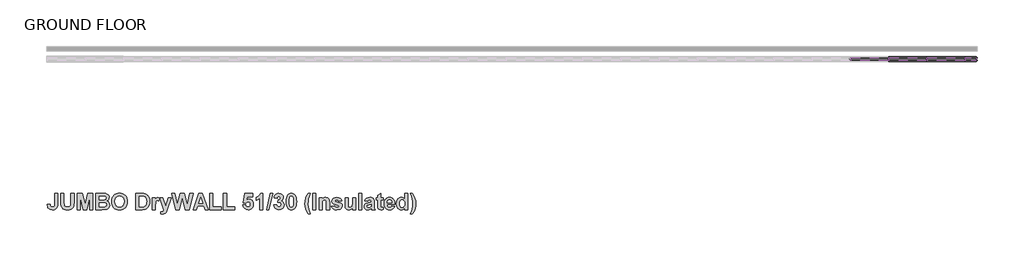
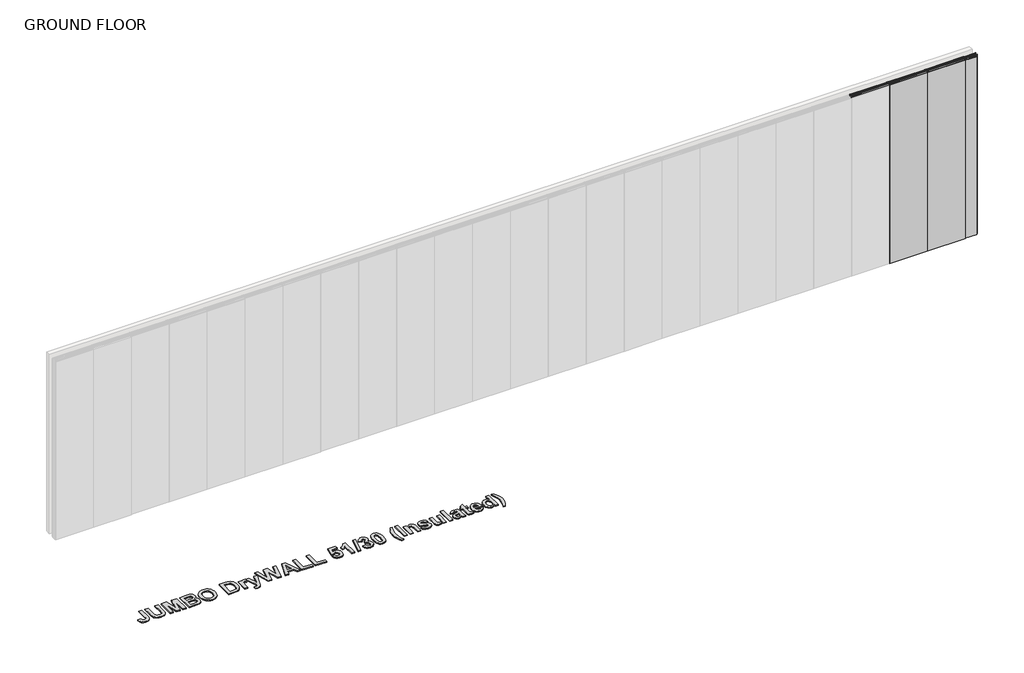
# One storey, part 2 of 2: 13 members, 3 plates, 1 proxy.
"""IFC4 building model written with IfcOpenShell, lengths in millimetres."""

from ifc_helpers import new_model, si_unit, origin, origin_with_axes, place, context, project, spatial, polyline, outline, extrude, transform, mapped, element, save
from components import rectangular_mullion_stud_mullion_51mm_94d3096a, rectangular_mullion_stud_mullion_51mm_2ef0a27f, rectangular_mullion_stud_mullion_51mm_d47c2d60, rectangular_mullion_stud_mullion_51mm_92998b61, rectangular_mullion_stud_mullion_51mm_77066ee0, rectangular_mullion_stud_mullion_51mm_8a3d9f1b, plate_2_layer_drywall_panels_2_layer_12mm_thick_drywall_9ebc670e, plate_2_layer_drywall_panels_2_layer_12mm_thick_drywall_8d42099b

model = new_model("IFC4")

# Units and contexts
model_context = context("Model", 3, world=origin())
ifc_project = project(units=[si_unit("LENGTHUNIT", "METRE", prefix="MILLI")], contexts=[model_context])

# Site, building, storey
site = spatial("IfcSite", under=ifc_project)
building = spatial("IfcBuilding", under=site)
storey = spatial("IfcBuildingStorey", under=building, Name="GROUND FLOOR", Elevation=0.0)

# Proxy
placement = place(None, origin())
element("IfcBuildingElementProxy", 1, Name="600mm Arial", ObjectType="600mm Arial", at=placement, inside=storey, context=model_context, shape_type="SweptSolid", body=[
    extrude(outline(polyline([(61762.9500241, -3369.743976), (61811.5338051, -3369.743976), (61811.5338051, -3530.994051), (61810.1104521, -3558.9866592), (61805.8403932, -3579.7043522), (61795.149431, -3599.7261838), (61778.2589759, -3615.3830664), (61755.0741377, -3625.4888724), (61725.5000263, -3628.8574744), (61691.5293357, -3623.4566406), (61677.8651473, -3616.7055985), (61666.4150635, -3607.2541395), (61657.3530497, -3595.1892463), (61650.8530712, -3580.5979016), (61645.5392201, -3543.8358577), (61694.1230011, -3539.7872093), (61696.3529207, -3558.417318), (61701.1448757, -3570.6581534), (61712.5633294, -3580.9062947), (61728.726293, -3584.3223418), (61744.7073837, -3581.8710117), (61755.200658, -3574.5170215), (61761.0126826, -3559.4611102), (61762.9500241, -3533.9040171), (61762.9500241, -3369.743976)])), origin_with_axes(), (0.0, 0.0, 1.0), 15.0),
    extrude(outline(polyline([(61860.117586, -3369.743976), (61908.701367, -3369.743976), (61908.701367, -3507.3347619), (61910.7889513, -3549.8455702), (61916.8777389, -3563.8814119), (61927.9324469, -3574.8649522), (61943.9530752, -3581.9579944), (61964.9396238, -3584.3223418), (61985.9024499, -3582.0924222), (62000.9662687, -3575.4026633), (62010.6687913, -3565.4629151), (62015.547729, -3553.4830277), (62018.0148741, -3510.307988), (62018.0148741, -3369.743976), (62066.598655, -3369.743976), (62066.598655, -3503.539154), (62062.3602262, -3568.3807887), (62056.3346987, -3585.8326775), (62046.7349738, -3600.3587851), (62033.4266236, -3612.085632), (62016.2752205, -3621.1397383), (61994.2844173, -3626.9280404), (61966.457867, -3628.8574744), (61933.8630842, -3626.754075), (61910.2196101, -3620.4438769), (61893.0602995, -3610.7650768), (61879.9180071, -3598.5558714), (61870.682028, -3584.7493477), (61865.2416567, -3570.2785926), (61861.3986037, -3543.1716263), (61860.117586, -3505.6267383), (61860.117586, -3369.743976)])), origin_with_axes(), (0.0, 0.0, 1.0), 15.0),
    extrude(outline(polyline([(62115.182436, -3624.808826), (62115.182436, -3369.743976), (62198.432769, -3369.743976), (62238.6662126, -3543.7093374), (62278.8996562, -3369.743976), (62362.1499892, -3369.743976), (62362.1499892, -3624.808826), (62313.5662082, -3624.808826), (62311.541884, -3424.0211687), (62267.1332717, -3624.808826), (62210.2624136, -3624.808826), (62165.7905412, -3424.0211687), (62163.7662169, -3624.808826), (62115.182436, -3624.808826)])), origin_with_axes(), (0.0, 0.0, 1.0), 15.0),
    extrude(outline(polyline([(62410.7337701, -3369.743976), (62515.4292877, -3369.743976), (62561.7673339, -3372.2743812), (62589.0957107, -3382.8704532), (62600.1425112, -3392.2645828), (62609.1808025, -3404.3156378), (62615.20633, -3418.5096298), (62617.2148391, -3434.3325702), (62614.8188617, -3451.570956), (62607.6309292, -3467.3543588), (62596.3310883, -3480.5282812), (62581.5993851, -3489.9382257), (62600.2294939, -3499.0793147), (62613.9885724, -3512.9649136), (62622.4812451, -3530.6619353), (62625.312136, -3551.2372931), (62623.2799042, -3568.3254361), (62617.1832091, -3584.9233131), (62607.5676691, -3599.6312936), (62594.9789029, -3611.0497474), (62579.2666678, -3618.9493563), (62560.2807208, -3623.1008024), (62497.9062312, -3624.808826), (62410.7337701, -3624.808826), (62410.7337701, -3369.743976)]), holes=[polyline([(62459.3175511, -3414.2791085), (62459.3175511, -3470.9601863), (62496.3879881, -3470.9601863), (62537.5070735, -3470.1378046), (62550.4516779, -3467.1803934), (62560.3123509, -3461.3446463), (62566.5513814, -3452.9152338), (62568.6310582, -3442.1768265), (62566.836052, -3431.9049626), (62561.4510333, -3423.7364982), (62552.5392623, -3418.0193638), (62540.163999, -3415.1014902), (62491.8332586, -3414.2791085), (62459.3175511, -3414.2791085)]), polyline([(62459.3175511, -3515.4953188), (62459.3175511, -3580.2736934), (62510.6847778, -3580.2736934), (62548.7673769, -3578.7554503), (62560.0118653, -3575.3631257), (62568.9473589, -3569.1082802), (62574.783106, -3560.117434), (62576.728355, -3548.5171074), (62575.2259269, -3538.4587465), (62570.7186425, -3530.045149), (62553.3853665, -3518.974626), (62504.1689843, -3515.4953188), (62459.3175511, -3515.4953188)])]), origin_with_axes(), (0.0, 0.0, 1.0), 15.0),
    extrude(outline(polyline([(62657.7013233, -3498.8579042), (62660.5638442, -3463.0842999), (62669.1514071, -3433.5734486), (62679.2493055, -3415.1410278), (62692.4627655, -3398.6854861), (62707.9377752, -3385.2189856), (62724.8203227, -3375.7536884), (62750.0294851, -3368.2099178), (62778.844475, -3365.6953275), (62805.1369671, -3367.8758252), (62828.6618285, -3374.4173182), (62849.4190591, -3385.3198065), (62867.408659, -3400.58329), (62881.9387205, -3419.7293642), (62892.3173358, -3442.2796242), (62898.544505, -3468.23407), (62900.620228, -3497.5927016), (62898.56032, -3526.7516685), (62892.3805959, -3552.5499408), (62882.0810558, -3574.9875187), (62867.6616995, -3594.0644021), (62849.7907124, -3609.2863712), (62829.1362795, -3620.1592063), (62805.6984008, -3626.6829073), (62779.4770763, -3628.8574744), (62752.9789887, -3626.6927917), (62729.3434221, -3620.1987439), (62708.5703765, -3609.3753308), (62690.6598518, -3594.2225524), (62676.2404955, -3575.2741661), (62665.9409554, -3553.0639294), (62659.7612313, -3527.5918421), (62657.7013233, -3498.8579042)]), holes=[polyline([(62706.2851042, -3497.0866206), (62711.4487125, -3534.837104), (62717.9032227, -3549.8099864), (62726.9395371, -3562.1812958), (62750.3853234, -3578.7870803), (62779.4138162, -3584.3223418), (62808.3790489, -3578.8266179), (62831.6350547, -3562.3394461), (62840.5606639, -3549.9740673), (62846.936099, -3534.8608266), (62852.0364471, -3496.3907591), (62847.0705268, -3458.4979404), (62840.8631264, -3443.6792546), (62832.1727658, -3431.6123845), (62809.0511878, -3415.5759412), (62779.4138162, -3410.2304601), (62749.7131845, -3415.6392013), (62726.401826, -3431.865425), (62717.6007602, -3444.0548616), (62711.3142847, -3458.9882064), (62706.2851042, -3497.0866206)])]), origin_with_axes(), (0.0, 0.0, 1.0), 15.0),
    extrude(outline(polyline([(63038.2742741, -3369.743976), (63132.7216503, -3369.743976), (63160.8724088, -3370.9617335), (63181.4319515, -3374.6150061), (63202.339425, -3383.8114477), (63220.0206317, -3398.1161449), (63234.1671786, -3416.8727739), (63244.4706725, -3439.4250107), (63250.7571481, -3466.729665), (63252.8526399, -3499.7435461), (63250.8915758, -3529.0329869), (63245.0083836, -3554.0207389), (63233.3368894, -3579.1982712), (63217.5534866, -3599.0619525), (63201.7700838, -3610.6701866), (63181.2421711, -3619.4317148), (63161.2677846, -3623.4645482), (63135.5050961, -3624.808826), (63038.2742741, -3624.808826), (63038.2742741, -3369.743976)]), holes=[polyline([(63086.858055, -3414.2791085), (63086.858055, -3580.2736934), (63128.230181, -3580.2736934), (63161.7580506, -3577.8698084), (63184.1205071, -3567.4635168), (63192.1940814, -3557.7293641), (63198.6387073, -3543.2665165), (63202.861321, -3523.3712052), (63204.268859, -3497.3396611), (63202.861321, -3471.6718628), (63198.6387073, -3452.7412684), (63191.8935957, -3438.8872996), (63182.9185646, -3428.4493779), (63171.4605733, -3421.1428328), (63157.2665813, -3416.6829935), (63111.7825468, -3414.2791085), (63086.858055, -3414.2791085)])]), origin_with_axes(), (0.0, 0.0, 1.0), 15.0),
    extrude(outline(polyline([(63341.922905, -3624.808826), (63293.339124, -3624.808826), (63293.339124, -3438.570999), (63341.922905, -3438.570999), (63341.922905, -3464.5076529), (63361.3437653, -3440.3106526), (63380.9544061, -3434.5223506), (63396.1210226, -3437.0843859), (63410.749928, -3444.7704919), (63396.5796586, -3491.0136479), (63384.8765342, -3485.0830106), (63374.0590518, -3483.1061315), (63356.9471862, -3488.641393), (63350.7002482, -3496.3986666), (63345.9399233, -3508.5999645), (63341.922905, -3569.0766501), (63341.922905, -3624.808826)])), origin_with_axes(), (0.0, 0.0, 1.0), 15.0),
    extrude(outline(polyline([(63410.749928, -3438.570999), (63459.333709, -3438.570999), (63501.8445173, -3570.4051129), (63544.3553256, -3438.570999), (63592.9391066, -3438.570999), (63529.9320156, -3617.0278298), (63518.2288913, -3650.1761387), (63506.6839173, -3673.7721677), (63494.0635211, -3686.9935352), (63476.5088346, -3694.8694215), (63453.0076958, -3697.6844974), (63426.9445217, -3694.9010516), (63422.8958732, -3658.9060368), (63442.1902133, -3661.2466617), (63455.9571994, -3658.6767188), (63465.628092, -3650.9668903), (63477.2995863, -3624.808826), (63410.749928, -3438.570999)])), origin_with_axes(), (0.0, 0.0, 1.0), 15.0),
    extrude(outline(polyline([(64171.8958296, -3624.808826), (64120.8449035, -3624.808826), (64100.8547019, -3568.1277482), (64004.5095218, -3568.1277482), (63984.7723607, -3624.808826), (63933.0255732, -3624.808826), (64026.1444867, -3369.743976), (64077.8912742, -3369.743976), (64171.8958296, -3624.808826)]), holes=[polyline([(64085.2927096, -3523.5926156), (64052.4607014, -3430.4737021), (64020.0715141, -3523.5926156), (64085.2927096, -3523.5926156)])]), origin_with_axes(), (0.0, 0.0, 1.0), 15.0),
    extrude(outline(polyline([(63661.1967884, -3624.808826), (63596.987755, -3369.743976), (63646.8367386, -3369.743976), (63688.0823443, -3544.9745401), (63732.4276964, -3369.743976), (63797.7754122, -3369.743976), (63841.9309839, -3547.8845061), (63883.1765896, -3369.743976), (63933.0255732, -3369.743976), (63869.7654418, -3624.808826), (63812.2619823, -3624.808826), (63765.0066641, -3434.1427898), (63716.8024439, -3624.808826), (63661.1967884, -3624.808826)])), origin_with_axes(), (0.0, 0.0, 1.0), 15.0),
    extrude(outline(polyline([(64196.18772, -3624.808826), (64196.18772, -3369.743976), (64244.771501, -3369.743976), (64244.771501, -3580.2736934), (64374.3282502, -3580.2736934), (64374.3282502, -3624.808826), (64196.18772, -3624.808826)])), origin_with_axes(), (0.0, 0.0, 1.0), 15.0),
    extrude(outline(polyline([(64410.7660859, -3624.808826), (64410.7660859, -3369.743976), (64459.3498668, -3369.743976), (64459.3498668, -3580.2736934), (64588.906616, -3580.2736934), (64588.906616, -3624.808826), (64410.7660859, -3624.808826)])), origin_with_axes(), (0.0, 0.0, 1.0), 15.0),
    extrude(outline(polyline([(64714.4147168, -3553.0085768), (64758.9498494, -3547.8845061), (64763.093388, -3562.9562324), (64771.3488351, -3574.5170215), (64782.4509882, -3581.8710117), (64795.1346446, -3584.3223418), (64809.3286366, -3581.7207689), (64821.1661887, -3573.9160502), (64829.1606878, -3560.8765556), (64831.8255208, -3542.5706551), (64829.3504682, -3525.4113444), (64821.9253102, -3513.1546939), (64810.5305791, -3505.8007037), (64796.1468067, -3503.3493736), (64777.3269176, -3508.4101841), (64760.5946128, -3523.5926156), (64718.4633652, -3517.3298626), (64746.8039041, -3373.7926244), (64868.2633565, -3373.7926244), (64868.2633565, -3422.3764053), (64786.0884458, -3422.3764053), (64776.2831254, -3468.7460817), (64791.7660426, -3461.2972012), (64807.5968905, -3458.814241), (64835.7160189, -3464.5630055), (64859.2171577, -3481.8092988), (64875.1112657, -3508.2283112), (64880.4093018, -3541.4952328), (64875.9969076, -3570.4209279), (64862.7597251, -3596.0887263), (64849.5423114, -3610.4250536), (64833.9921803, -3620.6652873), (64816.1093319, -3626.8094276), (64795.8937661, -3628.8574744), (64764.8883942, -3623.7175887), (64740.1932204, -3608.2979316), (64722.9785571, -3584.1958216), (64714.4147168, -3553.0085768)])), origin_with_axes(), (0.0, 0.0, 1.0), 15.0),
    extrude(outline(polyline([(65030.209293, -3624.808826), (64981.6255121, -3624.808826), (64981.6255121, -3442.4931271), (64953.5696438, -3466.3738267), (64920.8957859, -3483.1061315), (64920.8957859, -3434.5223506), (64940.3640913, -3425.4366142), (64961.4455301, -3410.7049111), (64979.9016735, -3391.6873341), (64991.4940926, -3369.743976), (65030.209293, -3369.743976), (65030.209293, -3624.808826)])), origin_with_axes(), (0.0, 0.0, 1.0), 15.0),
    extrude(outline(polyline([(65086.0047289, -3624.808826), (65146.7344551, -3369.743976), (65184.0579327, -3369.743976), (65123.3282065, -3624.808826), (65086.0047289, -3624.808826)])), origin_with_axes(), (0.0, 0.0, 1.0), 15.0),
    extrude(outline(polyline([(65200.2525263, -3553.5146578), (65248.8363073, -3547.8845061), (65252.5844701, -3563.5097586), (65259.78031, -3574.9598424), (65269.6330755, -3581.981717), (65281.3520149, -3584.3223418), (65293.924966, -3581.6416938), (65304.3154426, -3573.5997495), (65311.2898721, -3561.0188909), (65313.6146819, -3544.7214995), (65311.48756, -3529.3018425), (65305.1061942, -3517.4563829), (65295.6567121, -3509.9126122), (65284.325241, -3507.398022), (65265.0309009, -3511.0038495), (65269.2693297, -3470.9601863), (65283.099576, -3469.2205327), (65293.2132895, -3462.9894097), (65299.4048749, -3453.1208292), (65301.4687367, -3440.4688029), (65299.9267709, -3429.7224881), (65295.3008738, -3421.3958733), (65288.1129414, -3416.0582997), (65278.8848697, -3414.2791085), (65269.4986477, -3416.3429703), (65261.5832238, -3422.5345557), (65255.8186443, -3432.6957143), (65252.8849557, -3446.6682958), (65204.3011748, -3439.3933807), (65209.8601588, -3417.655618), (65217.6806926, -3400.7730704), (65228.4032848, -3387.8600961), (65242.6684445, -3378.0310532), (65259.6616973, -3371.8157453), (65278.5685691, -3369.743976), (65309.2181028, -3375.4848329), (65322.0045568, -3382.6609041), (65333.0988024, -3392.7074037), (65345.8140888, -3412.7292353), (65350.0525176, -3435.218212), (65347.7791066, -3451.1637189), (65340.9588737, -3465.4091097), (65329.5918188, -3477.9543846), (65313.677942, -3488.7995433), (65333.5416233, -3496.3512215), (65348.9770954, -3509.6437567), (65358.893121, -3527.5068363), (65362.1984628, -3548.770148), (65356.3389932, -3579.5382944), (65338.7605841, -3605.4195957), (65326.3240377, -3615.6736676), (65312.452277, -3622.9980047), (65280.4031129, -3628.8574744), (65250.1410475, -3623.646421), (65225.5249489, -3608.0132611), (65208.3102856, -3583.9665036), (65200.2525263, -3553.5146578)])), origin_with_axes(), (0.0, 0.0, 1.0), 15.0),
    extrude(outline(polyline([(65475.5606184, -3369.743976), (65492.6922527, -3371.3887394), (65507.8391005, -3376.3230296), (65521.0011616, -3384.5468467), (65532.178436, -3396.0601906), (65542.8338144, -3414.1881721), (65550.444799, -3437.4481316), (65555.0113897, -3465.8400694), (65556.5335866, -3499.3639853), (65555.0034822, -3532.8562711), (65550.4131689, -3561.2798389), (65542.7626468, -3584.6346887), (65532.0519158, -3602.9208205), (65520.9299939, -3614.2681065), (65507.8074704, -3622.3733109), (65492.6843452, -3627.2364335), (65475.5606184, -3628.8574744), (65458.2530418, -3627.0782832), (65442.7048876, -3621.7407096), (65428.9161558, -3612.8447536), (65416.8868465, -3600.3904152), (65407.1309481, -3583.3694861), (65400.1624492, -3560.7737579), (65395.9813499, -3532.6032306), (65394.5876501, -3498.8579042), (65396.1177546, -3465.5316762), (65400.7080679, -3437.2267212), (65408.35859, -3413.9430391), (65419.069321, -3395.6806299), (65430.1912429, -3384.3333438), (65443.3137664, -3376.2281394), (65458.4368916, -3371.3650168), (65475.5606184, -3369.743976)]), holes=[polyline([(65475.5606184, -3414.2791085), (65459.3660247, -3419.6245896), (65453.0400116, -3427.0971926), (65448.3587619, -3438.8240395), (65444.4682638, -3462.9735947), (65443.1714311, -3499.3639853), (65444.3259285, -3535.2720174), (65447.7894207, -3557.8479768), (65453.016289, -3571.1009744), (65459.4609149, -3579.0401208), (65475.5606184, -3584.3223418), (65491.755212, -3578.9768607), (65498.0812252, -3571.5042577), (65502.7624749, -3559.7774108), (65506.652973, -3535.7543759), (65507.9498057, -3499.3639853), (65506.7953083, -3463.4954908), (65503.3318161, -3440.9116238), (65498.1049477, -3427.6190887), (65491.6603218, -3419.6245896), (65475.5606184, -3414.2791085)])]), origin_with_axes(), (0.0, 0.0, 1.0), 15.0),
    extrude(outline(polyline([(65771.1119525, -3693.635849), (65738.7227652, -3693.635849), (65716.0519156, -3653.963839), (65699.5331138, -3612.7577709), (65689.4510303, -3571.4568126), (65686.0903358, -3531.5001321), (65690.2022444, -3484.1024786), (65702.53797, -3439.3301206), (65718.7325637, -3403.0504352), (65738.7227652, -3369.743976), (65771.1119525, -3369.743976), (65753.5493585, -3416.9834791), (65742.486743, -3456.6001364), (65736.6272734, -3493.4807931), (65734.6741168, -3532.5122942), (65739.3553665, -3589.1617419), (65752.1971732, -3644.2296863), (65771.1119525, -3693.635849)])), origin_with_axes(), (0.0, 0.0, 1.0), 15.0),
    extrude(outline(polyline([(65811.5984366, -3624.808826), (65811.5984366, -3369.743976), (65860.1822176, -3369.743976), (65860.1822176, -3624.808826), (65811.5984366, -3624.808826)])), origin_with_axes(), (0.0, 0.0, 1.0), 15.0),
    extrude(outline(polyline([(66074.7605834, -3624.808826), (66026.1768025, -3624.808826), (66026.1768025, -3529.0962471), (66023.1403162, -3489.7484453), (66013.2084755, -3475.8944765), (65996.6975812, -3470.9601863), (65984.9391043, -3472.7235624), (65974.461645, -3478.0136909), (65966.1745678, -3486.221693), (65960.987237, -3496.7386898), (65957.3497795, -3539.8504694), (65957.3497795, -3624.808826), (65908.7659985, -3624.808826), (65908.7659985, -3438.570999), (65957.3497795, -3438.570999), (65957.3497795, -3465.3932947), (65969.6420138, -3451.8872566), (65983.4287687, -3442.2400866), (65998.7100442, -3436.4517846), (66015.4858403, -3434.5223506), (66043.6998589, -3440.4055428), (66063.0574591, -3455.3981939), (66072.1985481, -3476.0526269), (66074.7605834, -3509.1693057), (66074.7605834, -3624.808826)])), origin_with_axes(), (0.0, 0.0, 1.0), 15.0),
    extrude(outline(polyline([(66103.1011223, -3572.1763966), (66151.6849033, -3564.0790998), (66156.3108004, -3576.3199352), (66164.1155191, -3585.2079837), (66175.367915, -3590.6167249), (66190.3368436, -3592.4196387), (66206.5788823, -3590.6958001), (66218.2345616, -3585.5242843), (66222.9790714, -3579.8941326), (66224.5605747, -3572.6192175), (66221.2077877, -3563.5097586), (66205.3294948, -3557.1204853), (66158.4062923, -3544.6898695), (66132.5170835, -3533.3346759), (66116.5280852, -3515.3529835), (66111.1984192, -3491.519729), (66115.7689637, -3469.3312379), (66129.4805971, -3450.9699847), (66152.8077706, -3438.6342591), (66186.2249351, -3434.5223506), (66218.0922263, -3437.8435075), (66240.565388, -3447.8069782), (66255.5738542, -3464.2862424), (66265.0470588, -3487.1547799), (66216.4632779, -3495.2520767), (66212.8890805, -3484.8616002), (66207.1007784, -3477.2229393), (66198.7504411, -3472.5258745), (66187.4901377, -3470.9601863), (66173.6519839, -3472.288649), (66164.4001897, -3476.2740373), (66159.7822001, -3486.1426178), (66164.4001897, -3494.9357761), (66207.385449, -3508.5367044), (66238.6122314, -3518.3578398), (66258.7210457, -3530.2349294), (66269.5385282, -3545.907627), (66273.1443557, -3566.7360253), (66267.9174873, -3590.434852), (66252.2368822, -3610.5436663), (66240.5278273, -3618.5559573), (66226.3081358, -3624.2790223), (66190.3368436, -3628.8574744), (66157.0224769, -3625.0460514), (66131.4732913, -3613.6117827), (66113.5469515, -3595.6300903), (66103.1011223, -3572.1763966)])), origin_with_axes(), (0.0, 0.0, 1.0), 15.0),
    extrude(outline(polyline([(66435.0902922, -3624.808826), (66435.0902922, -3597.4804492), (66423.9011564, -3610.5357588), (66409.6913494, -3620.4755069), (66393.5204783, -3626.7619825), (66376.4481503, -3628.8574744), (66359.5735102, -3626.8015201), (66344.5017839, -3620.6336573), (66332.2925786, -3610.7413542), (66324.0055013, -3597.5120792), (66319.2609915, -3579.7597048), (66317.6794882, -3556.2981036), (66317.6794882, -3438.570999), (66366.2632691, -3438.570999), (66366.2632691, -3524.6680379), (66368.8885646, -3573.0936685), (66378.5041046, -3587.2006778), (66396.2485715, -3592.4196387), (66407.8805281, -3590.679985), (66418.2314671, -3585.4610242), (66426.4078391, -3577.6563055), (66431.5160947, -3568.1593782), (66435.0902922, -3517.5829032), (66435.0902922, -3438.570999), (66483.6740731, -3438.570999), (66483.6740731, -3624.808826), (66435.0902922, -3624.808826)])), origin_with_axes(), (0.0, 0.0, 1.0), 15.0),
    extrude(outline(polyline([(66532.2578541, -3624.808826), (66532.2578541, -3369.743976), (66580.841635, -3369.743976), (66580.841635, -3624.808826), (66532.2578541, -3624.808826)])), origin_with_axes(), (0.0, 0.0, 1.0), 15.0),
    extrude(outline(polyline([(66669.9119001, -3495.2520767), (66625.3767675, -3487.1547799), (66635.0318451, -3463.8117914), (66649.8268084, -3447.4274174), (66671.3906057, -3437.7486173), (66701.3521854, -3434.5223506), (66728.4433367, -3436.4755071), (66747.5953415, -3442.3349768), (66760.5320384, -3451.1913952), (66768.9772659, -3462.1353979), (66773.6268856, -3479.1444658), (66775.1767588, -3506.1960795), (66775.1767588, -3563.6362788), (66777.7387941, -3599.821074), (66787.3227041, -3624.808826), (66738.7389231, -3624.808826), (66734.1841936, -3609.3733539), (66732.4761701, -3603.2371211), (66706.4762561, -3622.436571), (66692.1636513, -3627.2522485), (66676.9337747, -3628.8574744), (66652.1595257, -3624.9590688), (66633.2526539, -3613.263852), (66621.2727665, -3595.6221828), (66617.2794707, -3573.8844201), (66619.0586619, -3558.9866592), (66624.3962355, -3545.7969218), (66632.9442608, -3534.9003641), (66644.354807, -3526.8821425), (66681.3619839, -3515.4320587), (66726.5929779, -3503.3493736), (66726.5929779, -3498.2253029), (66725.0826422, -3485.6049067), (66720.5516353, -3477.2229393), (66711.8454597, -3472.5258745), (66697.8096181, -3470.9601863), (66687.7354421, -3472.3044641), (66680.1600414, -3476.3372974), (66669.9119001, -3495.2520767)]), holes=[polyline([(66726.5929779, -3539.7872093), (66699.2013409, -3546.5244133), (66674.6564099, -3554.2105193), (66668.0615412, -3561.1216886), (66665.8632517, -3569.7092515), (66667.6266278, -3578.3205369), (66672.9167563, -3585.6824347), (66680.9270705, -3590.7353377), (66690.8510036, -3592.4196387), (66702.7597233, -3590.4585746), (66714.0674718, -3584.5753824), (66724.8216942, -3570.0255521), (66726.5929779, -3548.5803676), (66726.5929779, -3539.7872093)])]), origin_with_axes(), (0.0, 0.0, 1.0), 15.0),
    extrude(outline(polyline([(66912.8308048, -3438.570999), (66912.8308048, -3475.0088347), (66876.3929691, -3475.0088347), (66876.3929691, -3554.9063807), (66877.5000214, -3583.1520294), (66882.5292019, -3589.7943432), (66892.0814817, -3592.4196387), (66914.855129, -3587.7383889), (66916.8794533, -3622.2784207), (66898.1386393, -3627.2127109), (66877.0888306, -3628.8574744), (66852.5438996, -3624.3027449), (66836.5074563, -3612.5363605), (66829.3906915, -3592.9889798), (66827.8091882, -3557.6265664), (66827.8091882, -3475.0088347), (66803.5172977, -3475.0088347), (66803.5172977, -3438.570999), (66827.8091882, -3438.570999), (66827.8091882, -3402.1331633), (66876.3929691, -3373.7926244), (66876.3929691, -3438.570999), (66912.8308048, -3438.570999)])), origin_with_axes(), (0.0, 0.0, 1.0), 15.0),
    extrude(outline(polyline([(67046.4362025, -3568.1277482), (67095.0199834, -3576.225045), (67083.1903388, -3598.8958946), (67066.0468432, -3615.4146964), (67043.7634619, -3625.4967799), (67016.5141603, -3628.8574744), (66994.5114958, -3626.8766415), (66975.5690402, -3620.9341429), (66959.6867934, -3611.0299786), (66946.8647556, -3597.1641485), (66933.4852378, -3568.4598639), (66929.0253985, -3533.0816354), (66930.5041041, -3511.241075), (66934.9402208, -3491.8992898), (66942.3337486, -3475.0562798), (66952.6846877, -3460.712045), (66965.2971764, -3449.2540537), (66979.4753533, -3441.0697742), (66995.2192185, -3436.1592065), (67012.528772, -3434.5223506), (67031.7638057, -3436.2026978), (67048.8559025, -3441.2437395), (67063.8050623, -3449.6454757), (67076.6112852, -3461.4079064), (67086.8159351, -3476.6417368), (67093.9603762, -3495.4576722), (67098.0446084, -3517.8557125), (67099.0686318, -3543.8358577), (66977.6091794, -3543.8358577), (66980.7247409, -3564.3005102), (66989.0592632, -3579.6410921), (67001.3475438, -3589.225002), (67016.3243799, -3592.4196387), (67026.5250761, -3590.9804707), (67034.9861187, -3586.6629667), (67041.6442475, -3579.1508261), (67046.4362025, -3568.1277482)]), holes=[polyline([(67050.4848509, -3515.4953188), (67047.5274397, -3496.2879614), (67039.6673684, -3482.3153799), (67028.2489147, -3473.7989847), (67014.6163563, -3470.9601863), (67000.2246764, -3473.9492275), (66988.5531822, -3482.9163511), (66980.8987063, -3497.0708055), (66978.4315611, -3515.4953188), (67050.4848509, -3515.4953188)])]), origin_with_axes(), (0.0, 0.0, 1.0), 15.0),
    extrude(outline(polyline([(67301.5010524, -3624.808826), (67252.9172715, -3624.808826), (67252.9172715, -3597.9865302), (67241.0639044, -3611.611181), (67227.2652882, -3621.2346285), (67212.4386949, -3626.9517629), (67197.5013963, -3628.8574744), (67182.7716701, -3627.244341), (67169.1371349, -3622.404941), (67156.5977907, -3614.3392742), (67145.1536376, -3603.0473407), (67135.6191496, -3588.86521), (67128.8088011, -3572.1289515), (67123.3605223, -3530.994051), (67128.8008936, -3489.4005146), (67135.6013577, -3472.8500827), (67145.1220075, -3459.1305417), (67156.7223341, -3448.3644581), (67169.7618287, -3440.6743983), (67184.2404913, -3436.0603625), (67200.1583219, -3434.5223506), (67214.890025, -3436.1157151), (67228.593751, -3440.8958088), (67252.9172715, -3460.0161835), (67252.9172715, -3369.743976), (67301.5010524, -3369.743976), (67301.5010524, -3624.808826)]), holes=[polyline([(67171.9443032, -3528.1473451), (67173.9686274, -3554.59008), (67180.0416001, -3572.5559574), (67194.0695342, -3587.4537183), (67212.747088, -3592.4196387), (67228.2458202, -3588.6951984), (67241.2141472, -3577.5218777), (67249.9914904, -3558.9471216), (67252.9172715, -3533.0183752), (67250.0784731, -3504.6224837), (67241.5620779, -3485.4783864), (67228.6016585, -3474.5897363), (67212.4307874, -3470.9601863), (67196.6157545, -3474.5501987), (67183.5841674, -3485.3202361), (67174.8542693, -3503.2070383), (67171.9443032, -3528.1473451)])]), origin_with_axes(), (0.0, 0.0, 1.0), 15.0),
    extrude(outline(polyline([(67341.9875366, -3693.635849), (67359.985044, -3647.6457334), (67369.6638441, -3610.7334467), (67376.2745278, -3571.0377142), (67378.4253723, -3532.5122942), (67376.4801232, -3493.4807931), (67370.6443761, -3456.6001364), (67359.5896681, -3416.9834791), (67341.9875366, -3369.743976), (67374.3767239, -3369.743976), (67396.5731225, -3407.0832685), (67413.1868145, -3446.6050357), (67423.5535686, -3487.5027106), (67427.0091532, -3528.9697268), (67424.2415225, -3565.4708227), (67415.9386302, -3604.5023238), (67399.2221405, -3649.369572), (67374.3767239, -3693.635849), (67341.9875366, -3693.635849)])), origin_with_axes(), (0.0, 0.0, 1.0), 15.0),
])

# Members
rectangular_mullion_stud_mullion_51mm_shape = rectangular_mullion_stud_mullion_51mm_94d3096a(model_context)
element("IfcMember", 2, ObjectType="Rectangular Mullion : Stud Mullion - 51mm", at=placement, inside=storey, context=model_context, shape_type="MappedRepresentation", body=[
    mapped(rectangular_mullion_stud_mullion_51mm_shape, transform((76216.5186508, -1259.4010443, 3000.0), x_axis=(0.0, 0.0, 1.0), y_axis=(0.0, -1.0, 0.0), z_axis=(1.0, 0.0, 0.0))),
])
rectangular_mullion_stud_mullion_51mm_2_shape = rectangular_mullion_stud_mullion_51mm_2ef0a27f(model_context)
element("IfcMember", 3, ObjectType="Rectangular Mullion : Stud Mullion - 51mm", at=placement, inside=storey, context=model_context, shape_type="MappedRepresentation", body=[
    mapped(rectangular_mullion_stud_mullion_51mm_2_shape, transform((74254.5186511, -1259.4010443, 0.0), x_axis=(0.0, 0.0, -1.0), y_axis=(0.0, -1.0, 0.0), z_axis=(-1.0, 0.0, 0.0))),
])
element("IfcMember", 4, ObjectType="Rectangular Mullion : Stud Mullion - 51mm", at=placement, inside=storey, context=model_context, shape_type="MappedRepresentation", body=[
    mapped(rectangular_mullion_stud_mullion_51mm_2_shape, transform((74854.5186511, -1259.4010443, 0.0), x_axis=(0.0, 0.0, -1.0), y_axis=(0.0, -1.0, 0.0), z_axis=(-1.0, 0.0, 0.0))),
])
element("IfcMember", 5, ObjectType="Rectangular Mullion : Stud Mullion - 51mm", at=placement, inside=storey, context=model_context, shape_type="MappedRepresentation", body=[
    mapped(rectangular_mullion_stud_mullion_51mm_2_shape, transform((75454.5186511, -1259.4010443, 0.0), x_axis=(0.0, 0.0, -1.0), y_axis=(0.0, -1.0, 0.0), z_axis=(-1.0, 0.0, 0.0))),
])
rectangular_mullion_stud_mullion_51mm_3_shape = rectangular_mullion_stud_mullion_51mm_d47c2d60(model_context)
element("IfcMember", 6, ObjectType="Rectangular Mullion : Stud Mullion - 51mm", at=placement, inside=storey, context=model_context, shape_type="MappedRepresentation", body=[
    mapped(rectangular_mullion_stud_mullion_51mm_3_shape, transform((76235.5186508, -1259.4010443, 0.0), x_axis=(1.0, 0.0, 0.0), y_axis=(0.0, -1.0, 0.0), z_axis=(0.0, 0.0, -1.0))),
])
rectangular_mullion_stud_mullion_51mm_4_shape = rectangular_mullion_stud_mullion_51mm_92998b61(model_context)
element("IfcMember", 7, ObjectType="Rectangular Mullion : Stud Mullion - 51mm", at=placement, inside=storey, context=model_context, shape_type="MappedRepresentation", body=[
    mapped(rectangular_mullion_stud_mullion_51mm_4_shape, transform((74835.5186511, -1259.4010443, 3000.0), x_axis=(0.0, 0.0, 1.0), y_axis=(0.0, -1.0, 0.0), z_axis=(1.0, 0.0, 0.0))),
])
element("IfcMember", 8, ObjectType="Rectangular Mullion : Stud Mullion - 51mm", at=placement, inside=storey, context=model_context, shape_type="MappedRepresentation", body=[
    mapped(rectangular_mullion_stud_mullion_51mm_4_shape, transform((75435.5186511, -1259.4010443, 3000.0), x_axis=(0.0, 0.0, 1.0), y_axis=(0.0, -1.0, 0.0), z_axis=(1.0, 0.0, 0.0))),
])
element("IfcMember", 9, ObjectType="Rectangular Mullion : Stud Mullion - 51mm", at=placement, inside=storey, context=model_context, shape_type="MappedRepresentation", body=[
    mapped(rectangular_mullion_stud_mullion_51mm_4_shape, transform((76035.5186511, -1259.4010443, 3000.0), x_axis=(0.0, 0.0, 1.0), y_axis=(0.0, -1.0, 0.0), z_axis=(1.0, 0.0, 0.0))),
])
rectangular_mullion_stud_mullion_51mm_5_shape = rectangular_mullion_stud_mullion_51mm_77066ee0(model_context)
element("IfcMember", 10, ObjectType="Rectangular Mullion : Stud Mullion - 51mm", at=placement, inside=storey, context=model_context, shape_type="MappedRepresentation", body=[
    mapped(rectangular_mullion_stud_mullion_51mm_5_shape, transform((76054.5186511, -1259.4010443, 0.0), x_axis=(0.0, 0.0, -1.0), y_axis=(0.0, -1.0, 0.0), z_axis=(-1.0, 0.0, 0.0))),
])
rectangular_mullion_stud_mullion_51mm_6_shape = rectangular_mullion_stud_mullion_51mm_8a3d9f1b(model_context)
element("IfcMember", 11, ObjectType="Rectangular Mullion : Stud Mullion - 51mm", at=placement, inside=storey, context=model_context, shape_type="MappedRepresentation", body=[
    mapped(rectangular_mullion_stud_mullion_51mm_6_shape, transform((74245.0186511, -1259.4010443, 0.0), x_axis=(1.0, 0.0, 0.0), y_axis=(0.0, -1.0, 0.0), z_axis=(0.0, 0.0, -1.0))),
])
element("IfcMember", 12, ObjectType="Rectangular Mullion : Stud Mullion - 51mm", at=placement, inside=storey, context=model_context, shape_type="MappedRepresentation", body=[
    mapped(rectangular_mullion_stud_mullion_51mm_6_shape, transform((74845.0186511, -1259.4010443, 0.0), x_axis=(1.0, 0.0, 0.0), y_axis=(0.0, -1.0, 0.0), z_axis=(0.0, 0.0, -1.0))),
])
element("IfcMember", 13, ObjectType="Rectangular Mullion : Stud Mullion - 51mm", at=placement, inside=storey, context=model_context, shape_type="MappedRepresentation", body=[
    mapped(rectangular_mullion_stud_mullion_51mm_6_shape, transform((75445.0186511, -1259.4010443, 0.0), x_axis=(1.0, 0.0, 0.0), y_axis=(0.0, -1.0, 0.0), z_axis=(0.0, 0.0, -1.0))),
])
element("IfcMember", 14, ObjectType="Rectangular Mullion : Stud Mullion - 51mm", at=placement, inside=storey, context=model_context, shape_type="MappedRepresentation", body=[
    mapped(rectangular_mullion_stud_mullion_51mm_6_shape, transform((76045.0186511, -1259.4010443, 0.0), x_axis=(1.0, 0.0, 0.0), y_axis=(0.0, -1.0, 0.0), z_axis=(0.0, 0.0, -1.0))),
])

# Plates
plate_2_layer_drywall_panels_2_layer_12mm_thick_drywall_shape = plate_2_layer_drywall_panels_2_layer_12mm_thick_drywall_9ebc670e(model_context)
element("IfcPlate", 15, ObjectType="2 Layer - Drywall Panels : 2 Layer - 12mm thick Drywall Panels 76mm", at=placement, inside=storey, context=model_context, shape_type="MappedRepresentation", body=[
    mapped(plate_2_layer_drywall_panels_2_layer_12mm_thick_drywall_shape, transform((75136.3186511, -1259.4010443, 1.6), x_axis=(1.0, 0.0, 0.0), y_axis=(0.0, 1.0, 0.0), z_axis=(0.0, 0.0, 1.0))),
])
element("IfcPlate", 16, ObjectType="2 Layer - Drywall Panels : 2 Layer - 12mm thick Drywall Panels 76mm", at=placement, inside=storey, context=model_context, shape_type="MappedRepresentation", body=[
    mapped(plate_2_layer_drywall_panels_2_layer_12mm_thick_drywall_shape, transform((75736.3186511, -1259.4010443, 1.6), x_axis=(1.0, 0.0, 0.0), y_axis=(0.0, 1.0, 0.0), z_axis=(0.0, 0.0, 1.0))),
])
plate_2_layer_drywall_panels_2_layer_12mm_thick_drywall_2_shape = plate_2_layer_drywall_panels_2_layer_12mm_thick_drywall_8d42099b(model_context)
element("IfcPlate", 17, ObjectType="2 Layer - Drywall Panels : 2 Layer - 12mm thick Drywall Panels 76mm", at=placement, inside=storey, context=model_context, shape_type="MappedRepresentation", body=[
    mapped(plate_2_layer_drywall_panels_2_layer_12mm_thick_drywall_2_shape, transform((76126.818651, -1259.4010443, 1.6), x_axis=(1.0, 0.0, 0.0), y_axis=(0.0, 1.0, 0.0), z_axis=(0.0, 0.0, 1.0))),
])

save(model, "model.ifc")
